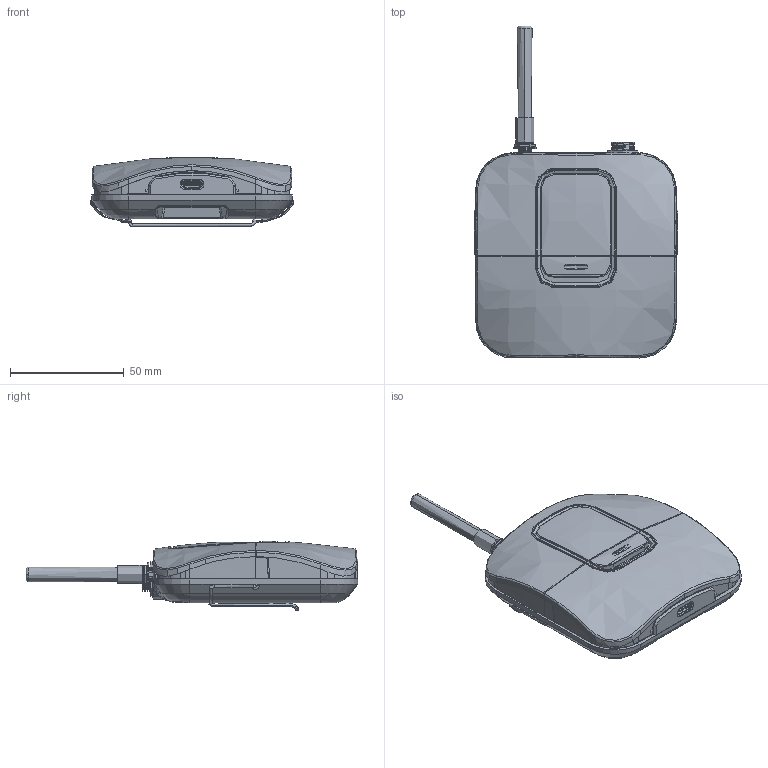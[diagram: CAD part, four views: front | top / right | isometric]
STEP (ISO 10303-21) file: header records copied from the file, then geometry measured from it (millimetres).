
FILE_DESCRIPTION((''),'2;1');
FILE_NAME('LEVE0CFCAC1AR7YU_ASM','2024-03-30T17:25:24',('DELL'),(''),'CREO PARAMETRIC BY PTC INC, 2022073','CREO PARAMETRIC BY PTC INC, 2022073','');
FILE_SCHEMA(('CONFIG_CONTROL_DESIGN'));
Products named in the file (67): BATTERY; MAGNET__1_; MAGNET__2_; BODY13; BODY14; BODY25; FLEXCABLE; SLIDE_SWTCH; BODY39; SCREEN; LCD_SPONGE; RUBBER; LIGHTPIPE; BODY52; BODY53; BODY54; BODY55; BODY57; BODY58; BODY59; BODY61; BODY66; BELTCLIP; LEVE0CFCAC1AR7YU_1; LEVE0CFCAC1AR7YU_2; LEVE0CFCAC1AR7YU_5; B2B_CONN__1_; BODY12; BODY18; BODY20; BODY21; BODY24; PCB_ANTENNA; PCB_XLR; BODY49; B2B_CONN__2_; BODY15; BODY16; BODY17; PCBA_ATN_ASM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
Assembly tree (67 placements, depth 3):
  LEVE0CFCAC1AR7YU_ASM
    BATTERY
    MAGNET__1_
    MAGNET__2_
    BODY13
    BODY14
    BODY25
    FLEXCABLE
    SLIDE_SWTCH
    BODY39
    SCREEN
    LCD_SPONGE
    RUBBER
    LIGHTPIPE
    BODY52
    BODY53
    BODY54
    BODY55
    BODY57
    BODY58
    BODY59
    BODY61
    BODY66
    BELTCLIP
    LEVE0CFCAC1AR7YU_1
    LEVE0CFCAC1AR7YU_2
    LEVE0CFCAC1AR7YU_5
    PCBA_ATN_ASM
      B2B_CONN__1_
      BODY12
      BODY18
      BODY20
      BODY21
      BODY24
      PCB_ANTENNA
      PCB_XLR
      BODY49
      B2B_CONN__2_
      BODY15
      BODY16
      BODY17
    PCBA_MAIN_ASM
      PCB_MAIN
      ACTUATOR
      LED
    PCBA_CHARGER_ASM
      4-PIN_CHARGER
      PCB_CHARGER
      B2B_CONN__3_
    PCBA_USB_ASM
      PCB_TYPE-C
      USB4085-16745
      USB4085-16746
    SUB_FRONT_ASM
      DISPLAY_LENS
      TOP
    SUB_BATTERY_COVER_ASM
      BATTERY_DOOR_LATCH
      BATTERY_DOOR
      FOAM
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Bounding box: 89.46 x 145.9 x 30.47 mm (x, y, z)
Volume: 76920.8 mm3; surface area: 103778.8 mm2
Topology: 53 solids, 75 shells, 11262 faces, 31953 edges, 20999 vertices
Faces by surface type: plane 7061, cylinder 2353, bspline 815, cone 366, extrusion 341, torus 253, sphere 72, revolution 1
Entity records: 478165 total; most frequent: CARTESIAN_POINT 192523, ORIENTED_EDGE 63628, DIRECTION 52393, EDGE_CURVE 31892, VECTOR 22154, LINE 21813, VERTEX_POINT 20994, AXIS2_PLACEMENT_3D 15119
